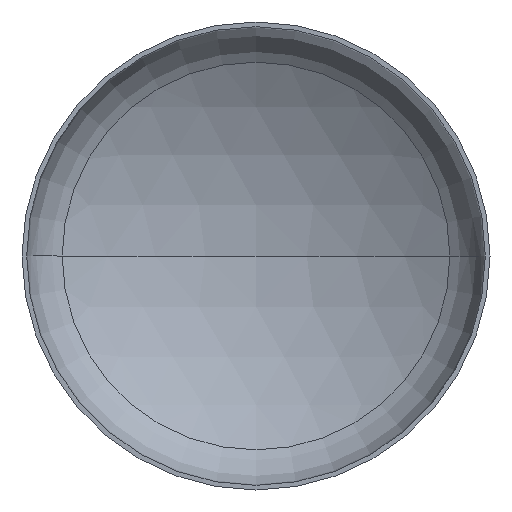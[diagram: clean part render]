
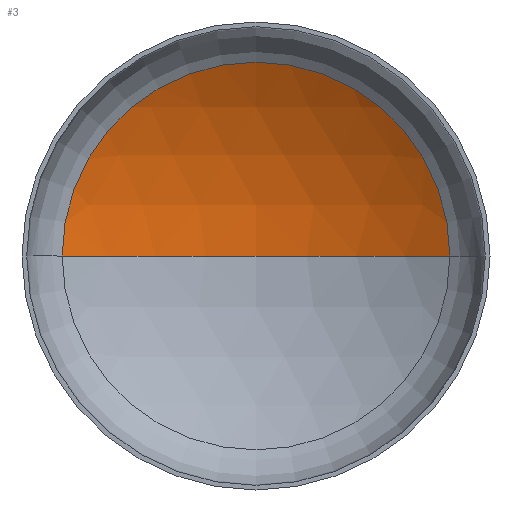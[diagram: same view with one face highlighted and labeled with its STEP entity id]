
A CAD part, front view. The second image highlights one B-rep face of the part: STEP entity #3.
In plain terms, the highlighted spherical face has radius 560 mm.
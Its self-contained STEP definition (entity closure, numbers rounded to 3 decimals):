
#3 = ADVANCED_FACE ( 'NONE', ( #118 ), #292, .F. ) ;
#6 = EDGE_LOOP ( 'NONE', ( #31, #68, #25 ) ) ;
#25 = ORIENTED_EDGE ( 'NONE', *, *, #223, .T. ) ;
#31 = ORIENTED_EDGE ( 'NONE', *, *, #231, .F. ) ;
#58 = VERTEX_POINT ( 'NONE', #367 ) ;
#68 = ORIENTED_EDGE ( 'NONE', *, *, #227, .T. ) ;
#95 = VERTEX_POINT ( 'NONE', #266 ) ;
#102 = VERTEX_POINT ( 'NONE', #253 ) ;
#118 = FACE_OUTER_BOUND ( 'NONE', #6, .T. ) ;
#119 = AXIS2_PLACEMENT_3D ( 'NONE', #261, #178, #177 ) ;
#125 = AXIS2_PLACEMENT_3D ( 'NONE', #234, #237, #288 ) ;
#129 = AXIS2_PLACEMENT_3D ( 'NONE', #306, #305, #302 ) ;
#162 = CIRCLE ( 'NONE', #119, 560. ) ;
#171 = AXIS2_PLACEMENT_3D ( 'NONE', #366, #313, #315 ) ;
#177 = DIRECTION ( 'NONE',  ( 1., 0., 0. ) ) ;
#178 = DIRECTION ( 'NONE',  ( 0., 0., 1. ) ) ;
#223 = EDGE_CURVE ( 'NONE', #102, #58, #362, .T. ) ;
#227 = EDGE_CURVE ( 'NONE', #95, #102, #255, .T. ) ;
#231 = EDGE_CURVE ( 'NONE', #95, #58, #162, .T. ) ;
#234 = CARTESIAN_POINT ( 'NONE',  ( 0., 119.107, 0. ) ) ;
#237 = DIRECTION ( 'NONE',  ( 0., -1., 0. ) ) ;
#253 = CARTESIAN_POINT ( 'NONE',  ( 289.956, 119.107, 0. ) ) ;
#255 = CIRCLE ( 'NONE', #129, 560. ) ;
#261 = CARTESIAN_POINT ( 'NONE',  ( 0., -359.982, 0. ) ) ;
#266 = CARTESIAN_POINT ( 'NONE',  ( 0., 200.018, 0. ) ) ;
#288 = DIRECTION ( 'NONE',  ( 1., 0., 0. ) ) ;
#292 = SPHERICAL_SURFACE ( 'NONE', #171, 560. ) ;
#302 = DIRECTION ( 'NONE',  ( -1., 0., 0. ) ) ;
#305 = DIRECTION ( 'NONE',  ( 0., 0., -1. ) ) ;
#306 = CARTESIAN_POINT ( 'NONE',  ( 0., -359.982, 0. ) ) ;
#313 = DIRECTION ( 'NONE',  ( 0., 0., -1. ) ) ;
#315 = DIRECTION ( 'NONE',  ( -1., 0., 0. ) ) ;
#362 = CIRCLE ( 'NONE', #125, 289.956 ) ;
#366 = CARTESIAN_POINT ( 'NONE',  ( 0., -359.982, 0. ) ) ;
#367 = CARTESIAN_POINT ( 'NONE',  ( -289.956, 119.107, 0. ) ) ;
